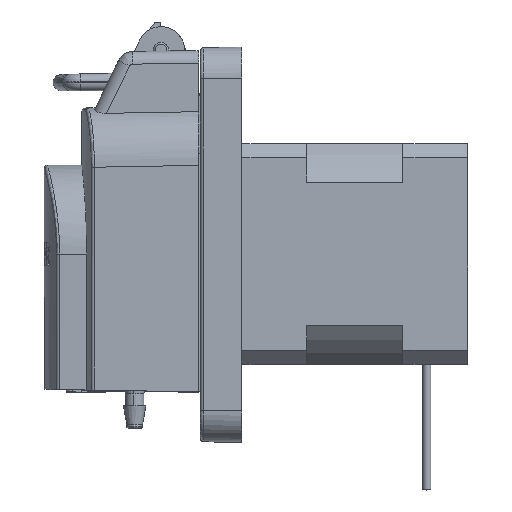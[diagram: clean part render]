
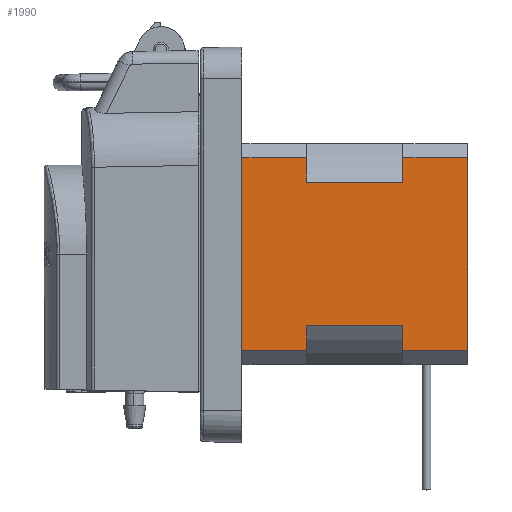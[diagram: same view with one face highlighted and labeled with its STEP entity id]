
A CAD part, top view. The second image highlights one B-rep face of the part: STEP entity #1990.
In plain terms, the highlighted planar face has unit normal (0, 0, 1).
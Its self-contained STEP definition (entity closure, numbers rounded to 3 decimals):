
#355 = DIRECTION ( 'NONE',  ( 0., -1., 0. ) ) ;
#390 = LINE ( 'NONE', #20043, #18118 ) ;
#545 = ORIENTED_EDGE ( 'NONE', *, *, #16343, .F. ) ;
#740 = VERTEX_POINT ( 'NONE', #13405 ) ;
#822 = CARTESIAN_POINT ( 'NONE',  ( 39.8, 15.35, 17.6 ) ) ;
#1647 = LINE ( 'NONE', #20832, #19363 ) ;
#1749 = LINE ( 'NONE', #8235, #5768 ) ;
#1895 = DIRECTION ( 'NONE',  ( -1., 0., 0. ) ) ;
#1990 = ADVANCED_FACE ( 'NONE', ( #15790 ), #13554, .T. ) ;
#2070 = VERTEX_POINT ( 'NONE', #16530 ) ;
#2403 = CARTESIAN_POINT ( 'NONE',  ( 29.465, -11.456, 17.6 ) ) ;
#2474 = VERTEX_POINT ( 'NONE', #10314 ) ;
#2615 = CARTESIAN_POINT ( 'NONE',  ( 39.8, -15.35, 17.6 ) ) ;
#2632 = ORIENTED_EDGE ( 'NONE', *, *, #18726, .T. ) ;
#3104 = LINE ( 'NONE', #2615, #7094 ) ;
#3410 = VECTOR ( 'NONE', #355, 1000. ) ;
#3747 = CARTESIAN_POINT ( 'NONE',  ( 29.465, -15.35, 17.6 ) ) ;
#4107 = CARTESIAN_POINT ( 'NONE',  ( 14.135, 15.35, 17.6 ) ) ;
#4222 = ORIENTED_EDGE ( 'NONE', *, *, #7187, .T. ) ;
#4253 = DIRECTION ( 'NONE',  ( 0., 1., 0. ) ) ;
#4819 = VERTEX_POINT ( 'NONE', #15413 ) ;
#4964 = EDGE_CURVE ( 'NONE', #20766, #740, #14258, .T. ) ;
#5151 = LINE ( 'NONE', #8687, #17790 ) ;
#5506 = DIRECTION ( 'NONE',  ( 0., 0., 1. ) ) ;
#5554 = DIRECTION ( 'NONE',  ( 0., -1., 0. ) ) ;
#5768 = VECTOR ( 'NONE', #15148, 1000. ) ;
#6031 = DIRECTION ( 'NONE',  ( 0., 1., 0. ) ) ;
#6400 = DIRECTION ( 'NONE',  ( -1., 0., 0. ) ) ;
#6786 = VERTEX_POINT ( 'NONE', #17566 ) ;
#7077 = CARTESIAN_POINT ( 'NONE',  ( 39.8, -15.35, 17.6 ) ) ;
#7094 = VECTOR ( 'NONE', #4253, 1000. ) ;
#7110 = VECTOR ( 'NONE', #5554, 1000. ) ;
#7187 = EDGE_CURVE ( 'NONE', #20766, #2474, #9617, .T. ) ;
#7315 = EDGE_LOOP ( 'NONE', ( #20298, #12411, #13129, #15893, #7949, #20453, #545, #13528, #4222, #2632, #7580, #12279 ) ) ;
#7580 = ORIENTED_EDGE ( 'NONE', *, *, #21922, .F. ) ;
#7949 = ORIENTED_EDGE ( 'NONE', *, *, #16544, .T. ) ;
#8235 = CARTESIAN_POINT ( 'NONE',  ( 29.465, -15.35, 17.6 ) ) ;
#8687 = CARTESIAN_POINT ( 'NONE',  ( 39.8, 15.35, 17.6 ) ) ;
#8957 = CARTESIAN_POINT ( 'NONE',  ( 39.8, -15.35, 17.6 ) ) ;
#9061 = VECTOR ( 'NONE', #12689, 1000. ) ;
#9168 = EDGE_CURVE ( 'NONE', #6786, #2070, #1749, .T. ) ;
#9494 = DIRECTION ( 'NONE',  ( 0., -1., 0. ) ) ;
#9603 = EDGE_CURVE ( 'NONE', #2070, #4819, #390, .T. ) ;
#9617 = LINE ( 'NONE', #2403, #9061 ) ;
#9697 = VECTOR ( 'NONE', #9494, 1000. ) ;
#10314 = CARTESIAN_POINT ( 'NONE',  ( 29.465, -11.456, 17.6 ) ) ;
#10420 = DIRECTION ( 'NONE',  ( -1., 0., 0. ) ) ;
#10453 = CARTESIAN_POINT ( 'NONE',  ( 39.8, 15.35, 17.6 ) ) ;
#10565 = DIRECTION ( 'NONE',  ( -1., 0., 0. ) ) ;
#10629 = VERTEX_POINT ( 'NONE', #16302 ) ;
#10705 = CARTESIAN_POINT ( 'NONE',  ( 3.8, -15.35, 17.6 ) ) ;
#10896 = EDGE_CURVE ( 'NONE', #20449, #6786, #5151, .T. ) ;
#11414 = VERTEX_POINT ( 'NONE', #14152 ) ;
#11720 = LINE ( 'NONE', #3747, #7110 ) ;
#11985 = DIRECTION ( 'NONE',  ( 1., 0., 0. ) ) ;
#11997 = LINE ( 'NONE', #10453, #21102 ) ;
#12279 = ORIENTED_EDGE ( 'NONE', *, *, #19393, .T. ) ;
#12411 = ORIENTED_EDGE ( 'NONE', *, *, #9168, .T. ) ;
#12689 = DIRECTION ( 'NONE',  ( 1., 0., 0. ) ) ;
#13129 = ORIENTED_EDGE ( 'NONE', *, *, #9603, .T. ) ;
#13174 = EDGE_CURVE ( 'NONE', #10629, #11414, #14527, .T. ) ;
#13405 = CARTESIAN_POINT ( 'NONE',  ( 14.135, -15.35, 17.6 ) ) ;
#13528 = ORIENTED_EDGE ( 'NONE', *, *, #4964, .F. ) ;
#13554 = PLANE ( 'NONE',  #15020 ) ;
#14152 = CARTESIAN_POINT ( 'NONE',  ( 3.8, 15.35, 17.6 ) ) ;
#14258 = LINE ( 'NONE', #16319, #9697 ) ;
#14527 = LINE ( 'NONE', #10705, #15050 ) ;
#14671 = VECTOR ( 'NONE', #20879, 1000. ) ;
#15020 = AXIS2_PLACEMENT_3D ( 'NONE', #18497, #5506, #11985 ) ;
#15050 = VECTOR ( 'NONE', #6031, 1000. ) ;
#15148 = DIRECTION ( 'NONE',  ( 0., -1., 0. ) ) ;
#15412 = VERTEX_POINT ( 'NONE', #18977 ) ;
#15413 = CARTESIAN_POINT ( 'NONE',  ( 14.135, 11.456, 17.6 ) ) ;
#15790 = FACE_OUTER_BOUND ( 'NONE', #7315, .T. ) ;
#15893 = ORIENTED_EDGE ( 'NONE', *, *, #15902, .F. ) ;
#15902 = EDGE_CURVE ( 'NONE', #20396, #4819, #17108, .T. ) ;
#16302 = CARTESIAN_POINT ( 'NONE',  ( 3.8, -15.35, 17.6 ) ) ;
#16304 = VERTEX_POINT ( 'NONE', #7077 ) ;
#16319 = CARTESIAN_POINT ( 'NONE',  ( 14.135, -15.35, 17.6 ) ) ;
#16343 = EDGE_CURVE ( 'NONE', #740, #10629, #20293, .T. ) ;
#16530 = CARTESIAN_POINT ( 'NONE',  ( 29.465, 11.456, 17.6 ) ) ;
#16544 = EDGE_CURVE ( 'NONE', #20396, #11414, #11997, .T. ) ;
#17084 = CARTESIAN_POINT ( 'NONE',  ( 14.135, -11.456, 17.6 ) ) ;
#17108 = LINE ( 'NONE', #20897, #3410 ) ;
#17566 = CARTESIAN_POINT ( 'NONE',  ( 29.465, 15.35, 17.6 ) ) ;
#17790 = VECTOR ( 'NONE', #10420, 1000. ) ;
#18118 = VECTOR ( 'NONE', #6400, 1000. ) ;
#18497 = CARTESIAN_POINT ( 'NONE',  ( 39.8, -15.35, 17.6 ) ) ;
#18726 = EDGE_CURVE ( 'NONE', #2474, #15412, #11720, .T. ) ;
#18977 = CARTESIAN_POINT ( 'NONE',  ( 29.465, -15.35, 17.6 ) ) ;
#19363 = VECTOR ( 'NONE', #10565, 1000. ) ;
#19393 = EDGE_CURVE ( 'NONE', #16304, #20449, #3104, .T. ) ;
#20043 = CARTESIAN_POINT ( 'NONE',  ( 29.465, 11.456, 17.6 ) ) ;
#20293 = LINE ( 'NONE', #8957, #14671 ) ;
#20298 = ORIENTED_EDGE ( 'NONE', *, *, #10896, .T. ) ;
#20396 = VERTEX_POINT ( 'NONE', #4107 ) ;
#20449 = VERTEX_POINT ( 'NONE', #822 ) ;
#20453 = ORIENTED_EDGE ( 'NONE', *, *, #13174, .F. ) ;
#20766 = VERTEX_POINT ( 'NONE', #17084 ) ;
#20832 = CARTESIAN_POINT ( 'NONE',  ( 39.8, -15.35, 17.6 ) ) ;
#20879 = DIRECTION ( 'NONE',  ( -1., 0., 0. ) ) ;
#20897 = CARTESIAN_POINT ( 'NONE',  ( 14.135, -15.35, 17.6 ) ) ;
#21102 = VECTOR ( 'NONE', #1895, 1000. ) ;
#21922 = EDGE_CURVE ( 'NONE', #16304, #15412, #1647, .T. ) ;
